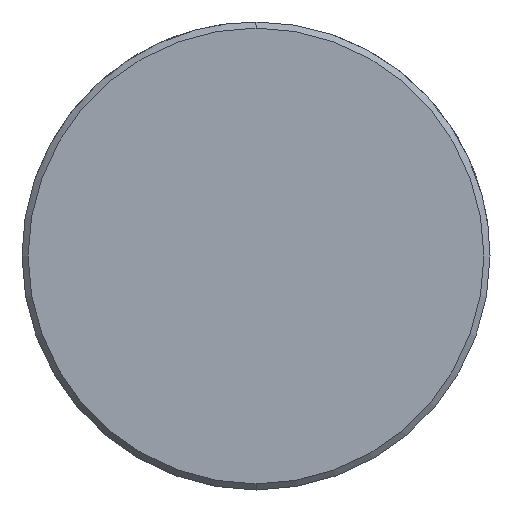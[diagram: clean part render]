
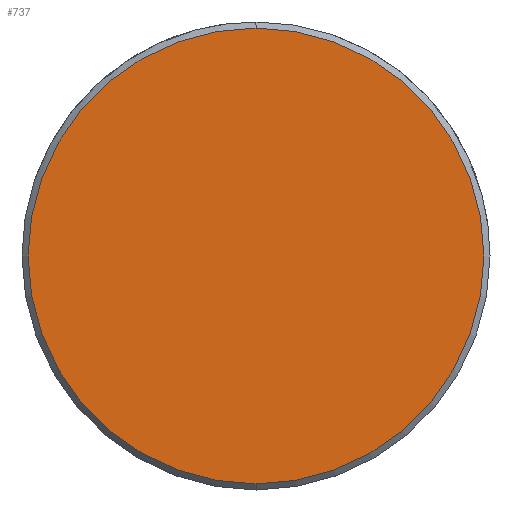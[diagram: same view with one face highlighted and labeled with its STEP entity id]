
A CAD part, left-side view. The second image highlights one B-rep face of the part: STEP entity #737.
In plain terms, the highlighted planar face has unit normal (-1, 0, 0).
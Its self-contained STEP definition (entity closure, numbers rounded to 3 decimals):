
#669=CARTESIAN_POINT('Vertex',(0.,0.,-11.2)) ;
#672=CARTESIAN_POINT('Axis2P3D Location',(0.,0.,0.)) ;
#676=CARTESIAN_POINT('Vertex',(0.,11.2,0.)) ;
#679=CARTESIAN_POINT('Axis2P3D Location',(0.,0.,0.)) ;
#683=CARTESIAN_POINT('Vertex',(0.,0.,11.2)) ;
#705=CARTESIAN_POINT('Axis2P3D Location',(0.,0.,0.)) ;
#709=CARTESIAN_POINT('Vertex',(0.,-11.2,0.)) ;
#712=CARTESIAN_POINT('Axis2P3D Location',(0.,0.,0.)) ;
#726=CARTESIAN_POINT('Axis2P3D Location',(0.,0.,0.)) ;
#673=DIRECTION('Axis2P3D Direction',(1.,0.,-0.)) ;
#680=DIRECTION('Axis2P3D Direction',(1.,0.,-0.)) ;
#706=DIRECTION('Axis2P3D Direction',(1.,0.,-0.)) ;
#713=DIRECTION('Axis2P3D Direction',(1.,0.,-0.)) ;
#727=DIRECTION('Axis2P3D Direction',(1.,0.,-0.)) ;
#728=DIRECTION('Axis2P3D XDirection',(-0.,0.,-1.)) ;
#674=AXIS2_PLACEMENT_3D('Circle Axis2P3D',#672,#673,$) ;
#681=AXIS2_PLACEMENT_3D('Circle Axis2P3D',#679,#680,$) ;
#707=AXIS2_PLACEMENT_3D('Circle Axis2P3D',#705,#706,$) ;
#714=AXIS2_PLACEMENT_3D('Circle Axis2P3D',#712,#713,$) ;
#729=AXIS2_PLACEMENT_3D('Plane Axis2P3D',#726,#727,#728) ;
#732=ORIENTED_EDGE('',*,*,#678,.F.) ;
#733=ORIENTED_EDGE('',*,*,#716,.F.) ;
#734=ORIENTED_EDGE('',*,*,#711,.F.) ;
#735=ORIENTED_EDGE('',*,*,#685,.F.) ;
#737=ADVANCED_FACE('549-20X140',(#736),#730,.F.) ;
#675=CIRCLE('generated circle',#674,11.2) ;
#682=CIRCLE('generated circle',#681,11.2) ;
#708=CIRCLE('generated circle',#707,11.2) ;
#715=CIRCLE('generated circle',#714,11.2) ;
#678=EDGE_CURVE('',#670,#677,#675,.T.) ;
#685=EDGE_CURVE('',#677,#684,#682,.T.) ;
#711=EDGE_CURVE('',#684,#710,#708,.T.) ;
#716=EDGE_CURVE('',#710,#670,#715,.T.) ;
#731=EDGE_LOOP('',(#732,#733,#734,#735)) ;
#736=FACE_OUTER_BOUND('',#731,.T.) ;
#730=PLANE('Plane',#729) ;
#670=VERTEX_POINT('',#669) ;
#677=VERTEX_POINT('',#676) ;
#684=VERTEX_POINT('',#683) ;
#710=VERTEX_POINT('',#709) ;
